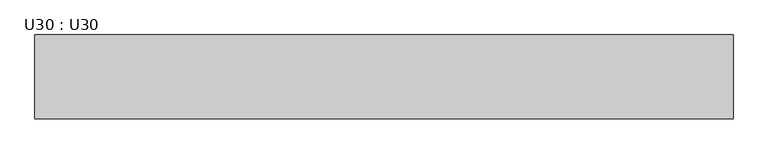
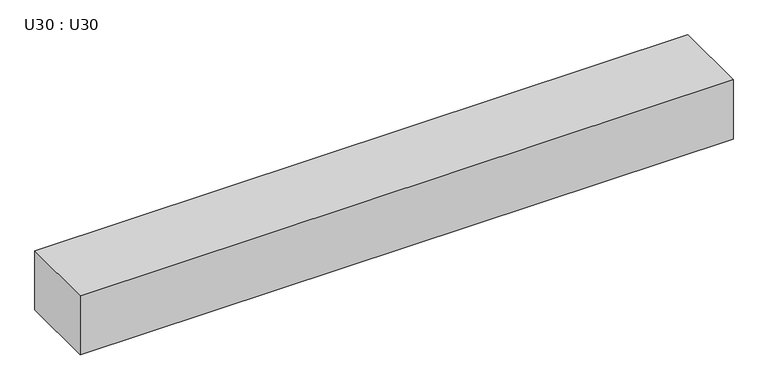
"""IFC4 building model written with IfcOpenShell, lengths in millimetres: beam geometry, U30 : U30."""

import ifcopenshell
import ifcopenshell.guid

model = None  # the IFC model being written
_history = None  # IfcOwnerHistory: only IFC2X3 demands one
_inside = {}  # id of a spatial element -> (the spatial element, [elements in it])
_under = {}  # id of a project, library or spatial element -> (it, [spatial elements below it])
_declared = {}  # id of a project -> (the project, [libraries it declares])
_typed = {}  # id of a type object -> (the type object, [elements of that type])
_made_of = {}  # id of a material, layer set ... -> (it, [elements and type objects made of it])


def new_model(schema):
    """Start an empty IFC model of exactly this schema.

    Asked for "IFC4X3", IfcOpenShell would pick the latest addendum, in which some entities
    have other attributes; the version numbers below select the first issue.
    IFC2X3 requires an IfcOwnerHistory on every rooted entity: one is made here for all.
    """
    global model, _history
    if schema == "IFC4X3":
        model = ifcopenshell.file(schema_version=(4, 3, 0, 0))
    else:
        model = ifcopenshell.file(schema=schema)
    _inside.clear()
    _under.clear()
    _declared.clear()
    _typed.clear()
    _made_of.clear()
    _history = None
    if model.schema == "IFC2X3":
        org = make("IfcOrganization", Name="unknown")
        user = make(
            "IfcPersonAndOrganization",
            ThePerson=make("IfcPerson", FamilyName="unknown"),
            TheOrganization=org,
        )
        app = make(
            "IfcApplication",
            ApplicationDeveloper=org,
            Version="unknown",
            ApplicationFullName="unknown",
            ApplicationIdentifier="unknown",
        )
        _history = make(
            "IfcOwnerHistory",
            OwningUser=user,
            OwningApplication=app,
            ChangeAction="ADDED",
            CreationDate=0,
        )
    return model


def make(cls, **values):
    """One entity of the class cls with the attributes given. An attribute that is None is left unset."""
    return model.create_entity(
        cls, **{name: value for name, value in values.items() if value is not None}
    )


def rooted(cls, **values):
    """An entity with a GlobalId (a new one), such as an element, a storey or a relation."""
    return make(cls, GlobalId=ifcopenshell.guid.new(), OwnerHistory=_history, **values)


def si_unit(unit_type, name, prefix=None):
    """IfcSIUnit, for example si_unit("LENGTHUNIT", "METRE", prefix="MILLI")."""
    return make("IfcSIUnit", UnitType=unit_type, Prefix=prefix, Name=name)


def assignment(units):
    """IfcUnitAssignment: the units of a project."""
    return None if units is None else make("IfcUnitAssignment", Units=units)


def point(xyz):
    """IfcCartesianPoint."""
    return None if xyz is None else make("IfcCartesianPoint", Coordinates=xyz)


def direction(xyz):
    """IfcDirection."""
    return None if xyz is None else make("IfcDirection", DirectionRatios=xyz)


def frame(location, z_axis=None, x_axis=None):
    """IfcAxis2Placement3D, a coordinate frame: its origin and axes. An axis left out is left unset."""
    return make(
        "IfcAxis2Placement3D",
        Location=point(location),
        Axis=direction(z_axis),
        RefDirection=direction(x_axis),
    )


def origin():
    """The frame at (0, 0, 0) with its axes left unset."""
    return frame((0.0, 0.0, 0.0))


def place(relative_to, where):
    """IfcLocalPlacement: puts the frame where relative to a parent placement (None: the world)."""
    return make(
        "IfcLocalPlacement", PlacementRelTo=relative_to, RelativePlacement=where
    )


def context(
    kind, dimensions, precision=None, world=None, true_north=None, identifier=None
):
    """IfcGeometricRepresentationContext, for example the 3D "Model" context."""
    return make(
        "IfcGeometricRepresentationContext",
        ContextIdentifier=identifier,
        ContextType=kind,
        CoordinateSpaceDimension=dimensions,
        Precision=precision,
        WorldCoordinateSystem=world,
        TrueNorth=true_north,
    )


def project(units=None, contexts=None):
    """IfcProject with its units and contexts."""
    return rooted(
        "IfcProject",
        Name="project",
        RepresentationContexts=contexts,
        UnitsInContext=assignment(units),
    )


def spatial(cls, under=None, at=None, **own):
    """A site, building, storey or space (cls), placed at a placement, below another one or the project."""
    s = rooted(cls, ObjectPlacement=at, **own)
    if under is not None:
        _under.setdefault(under.id(), (under, []))[1].append(s)
    return s


def polyline(points):
    """IfcPolyline through the points."""
    return make("IfcPolyline", Points=[point(p) for p in points])


def outline(outer, holes=None, kind="AREA"):
    """IfcArbitraryClosedProfileDef: a profile drawn as a closed curve; with holes, ...WithVoids."""
    if holes is None:
        return make("IfcArbitraryClosedProfileDef", ProfileType=kind, OuterCurve=outer)
    return make(
        "IfcArbitraryProfileDefWithVoids",
        ProfileType=kind,
        OuterCurve=outer,
        InnerCurves=holes,
    )


def extrude(swept, where, along, depth):
    """IfcExtrudedAreaSolid: the profile swept, set in the frame where, extruded along a direction by depth."""
    return make(
        "IfcExtrudedAreaSolid",
        SweptArea=swept,
        Position=where,
        ExtrudedDirection=direction(along),
        Depth=depth,
    )


def shape(context_of_items, identifier, shape_type, items):
    """IfcShapeRepresentation: the items that make up one representation, for example the "Body"."""
    return make(
        "IfcShapeRepresentation",
        ContextOfItems=context_of_items,
        RepresentationIdentifier=identifier,
        RepresentationType=shape_type,
        Items=items,
    )


def source(mapping_origin, context_of_items, identifier, shape_type, items):
    """IfcRepresentationMap: a shape defined once, which mapped items show again and again."""
    return make(
        "IfcRepresentationMap",
        MappingOrigin=mapping_origin,
        MappedRepresentation=shape(context_of_items, identifier, shape_type, items),
    )


def transform(
    local_origin,
    x_axis=None,
    y_axis=None,
    z_axis=None,
    scale=None,
    scale2=None,
    scale3=None,
    uniform=True,
):
    """IfcCartesianTransformationOperator3D, or its non-uniform kind. x_axis, y_axis, z_axis: its Axis1, 2, 3."""
    if uniform:
        return make(
            "IfcCartesianTransformationOperator3D",
            Axis1=direction(x_axis),
            Axis2=direction(y_axis),
            LocalOrigin=point(local_origin),
            Scale=scale,
            Axis3=direction(z_axis),
        )
    return make(
        "IfcCartesianTransformationOperator3DnonUniform",
        Axis1=direction(x_axis),
        Axis2=direction(y_axis),
        LocalOrigin=point(local_origin),
        Scale=scale,
        Axis3=direction(z_axis),
        Scale2=scale2,
        Scale3=scale3,
    )


def mapped(mapping_source, mapping_target):
    """IfcMappedItem: shows the shape of a source again, moved by a transform."""
    return make(
        "IfcMappedItem", MappingSource=mapping_source, MappingTarget=mapping_target
    )


def made_of(thing, what):
    """Note that an element or type object is made of a material, layer set ...; save() writes the relation."""
    if what is not None:
        _made_of.setdefault(what.id(), (what, []))[1].append(thing)
    return thing


def element(
    cls,
    number,
    at=None,
    inside=None,
    cuts=None,
    type_object=None,
    material=None,
    context=None,
    identifier="Body",
    shape_type=None,
    held_by="IfcProductDefinitionShape",
    body=None,
    shapes=None,
    **own,
):
    """One element of the class cls, such as IfcWall. Its Tag is "e" and its number.

    at: its placement. inside: the storey or other place that contains it. cuts: it is an
    opening in that element (IfcRelVoidsElement). A single representation is given by context,
    identifier, shape_type and body (its items); several are given by shapes. held_by: the class
    of the entity that holds the representations. save() writes the other relations.
    """
    e = rooted(cls, Tag="e%d" % number, ObjectPlacement=at, **own)
    if body is not None:
        shapes = [shape(context, identifier, shape_type, body)]
    if shapes is not None:
        e.Representation = make(held_by, Representations=shapes)
    if inside is not None:
        _inside.setdefault(inside.id(), (inside, []))[1].append(e)
    if cuts is not None:
        rooted(
            "IfcRelVoidsElement", RelatingBuildingElement=cuts, RelatedOpeningElement=e
        )
    if type_object is not None:
        _typed.setdefault(type_object.id(), (type_object, []))[1].append(e)
    return made_of(e, material)


def aggregate(whole, parts):
    """IfcRelAggregates: a whole, such as a stair, and the parts it consists of."""
    return rooted("IfcRelAggregates", RelatingObject=whole, RelatedObjects=parts)


def save(model, path):
    """Write the relations noted so far, then the file.

    IfcRelAggregates (storeys below a building ...), IfcRelContainedInSpatialStructure (elements
    in a storey), IfcRelDefinesByType, IfcRelAssociatesMaterial and IfcRelDeclares: one each for
    every whole, place, type object, material and project.
    """
    for whole, parts in _under.values():
        aggregate(whole, parts)
    for where, things in _inside.values():
        rooted(
            "IfcRelContainedInSpatialStructure",
            RelatedElements=things,
            RelatingStructure=where,
        )
    for kind, things in _typed.values():
        rooted("IfcRelDefinesByType", RelatedObjects=things, RelatingType=kind)
    for what, things in _made_of.values():
        rooted("IfcRelAssociatesMaterial", RelatedObjects=things, RelatingMaterial=what)
    for by, libraries in _declared.values():
        rooted("IfcRelDeclares", RelatingContext=by, RelatedDefinitions=libraries)
    model.write(path)


def u30_u30_a07a41db(model_context):
    return source(origin(), model_context, "Body", "SweptSolid", [
        extrude(outline(polyline([(-1250.0, -150.0), (-1250.0, 150.0), (1250.0, 150.0), (1250.0, -150.0), (-1250.0, -150.0)])), frame((0.0, 0.0, -120.0), z_axis=(0.0, 0.0, 1.0), x_axis=(1.0, 0.0, 0.0)), (0.0, 0.0, 1.0), 240.0),
    ])


if __name__ == "__main__":
    model = new_model("IFC4")
    model_context = context("Model", 3, world=origin())
    ifc_project = project(units=[si_unit("LENGTHUNIT", "METRE", prefix="MILLI")], contexts=[model_context])
    site = spatial("IfcSite", under=ifc_project)
    building = spatial("IfcBuilding", under=site)
    placement = place(None, origin())
    u30_u30_shape = u30_u30_a07a41db(model_context)
    element("IfcBeam", 1, ObjectType="U30 : U30", at=placement, inside=building, context=model_context, shape_type="MappedRepresentation", body=[
        mapped(u30_u30_shape, transform((0.0, 0.0, 0.0), x_axis=(1.0, 0.0, 0.0), y_axis=(0.0, 1.0, 0.0), z_axis=(0.0, 0.0, 1.0))),
    ])
    save(model, "model.ifc")
